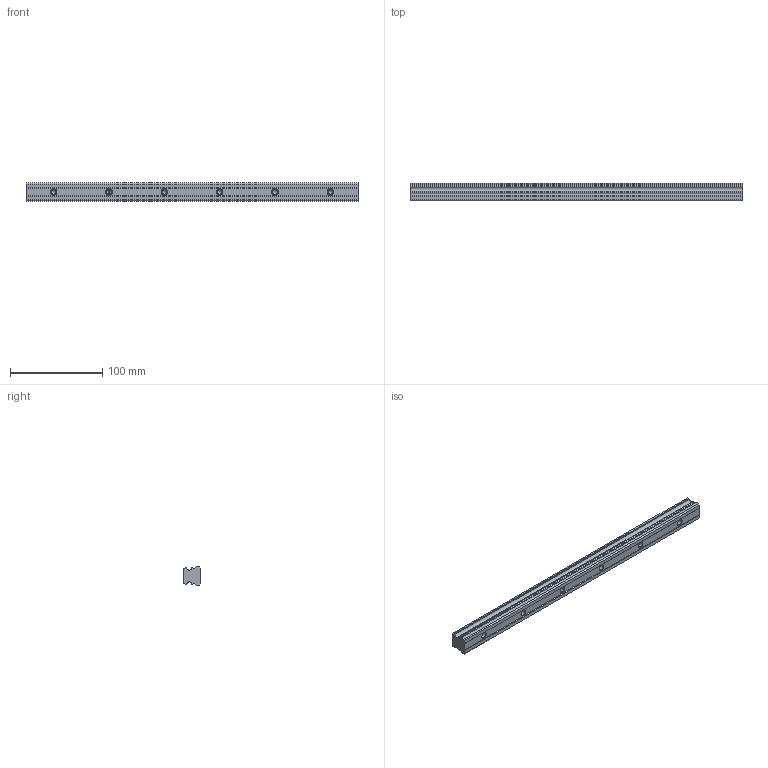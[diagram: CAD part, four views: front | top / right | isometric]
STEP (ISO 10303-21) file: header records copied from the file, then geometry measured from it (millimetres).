
FILE_DESCRIPTION (( 'STEP AP203' ), '1' );
FILE_NAME ('L1018.20R-0360.step', '2023-08-06T09:04:51', ( '' ), ( '' ), 'SwSTEP 2.0', 'SolidWorks 2019', '' );
FILE_SCHEMA (( 'CONFIG_CONTROL_DESIGN' ));
Length unit declared in the file: millimetre
Products named in the file (1): L1018.20R-0360
Bounding box: 360 x 19.3 x 20 mm (x, y, z)
Volume: 114166.2 mm3; surface area: 31026.4 mm2
Topology: 1 solids, 1 shells, 83 faces, 201 edges, 120 vertices
Faces by surface type: plane 32, cylinder 27, cone 24
Entity records: 2402 total; most frequent: DIRECTION 423, CARTESIAN_POINT 393, ORIENTED_EDGE 378, EDGE_CURVE 189, AXIS2_PLACEMENT_3D 150, LINE 123, VECTOR 123, VERTEX_POINT 120
